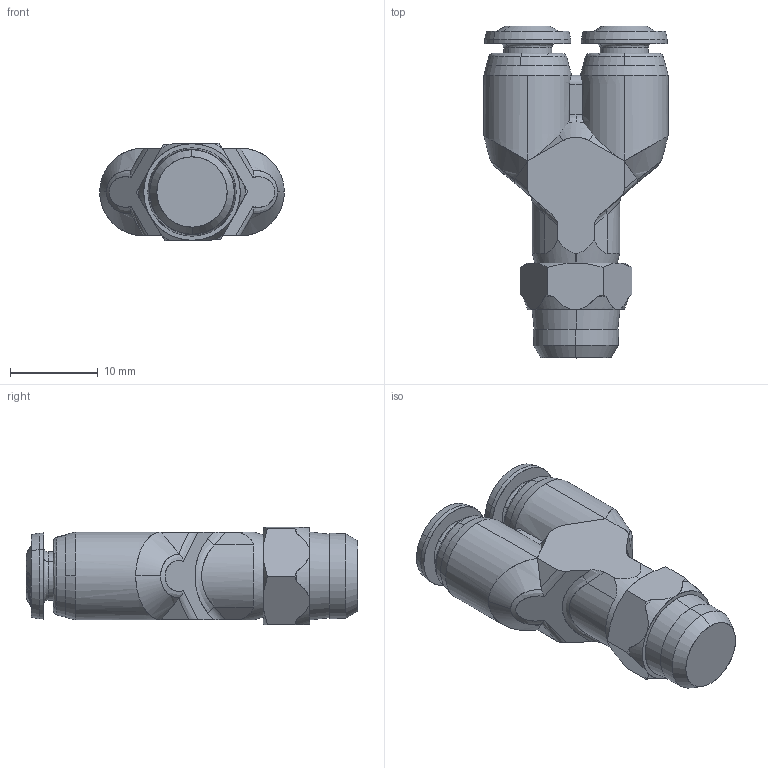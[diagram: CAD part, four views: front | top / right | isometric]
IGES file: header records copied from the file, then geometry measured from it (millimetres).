
Start section: SolidWorks IGES file using analytic representation for surfaces
Global section: file name: C:\Users\Cad01\Desktop\assiemi alfa\85320\8532000001A.igs; native system: SolidWorks 2012; preprocessor: SolidWorks 2012; author: Cad01; date: 121106.104901; units: millimetre
Bounding box: 21 x 37.8 x 11.09 mm (x, y, z)
Surface area: 2127.9 mm2 (no closed solid volume)
Topology: 0 solids, 0 shells, 369 faces, 3627 edges, 3627 vertices
Faces by surface type: bspline 267, revolution 102
